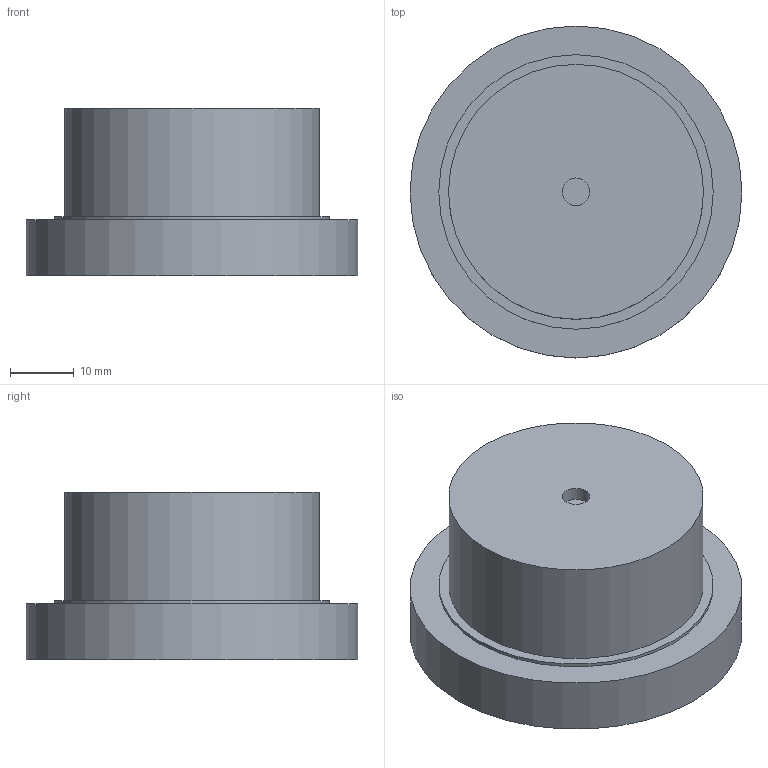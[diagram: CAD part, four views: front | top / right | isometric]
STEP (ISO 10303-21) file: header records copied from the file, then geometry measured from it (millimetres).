
FILE_DESCRIPTION(/* description */ (''),/* implementation_level */ '2;1');
FILE_NAME(/* name */ 'HW-Cycloid25_Output_Carrier.step',/* time_stamp */ '2026-10-21T02:01:44-07:00',/* author */ (''),/* organization */ (''),/* preprocessor_version */ 'ST-DEVELOPER v20.2',/* originating_system */ 'Autodesk Translation Framework v15.15.0.0',/* authorisation */ '');
FILE_SCHEMA (('AUTOMOTIVE_DESIGN { 1 0 10303 214 3 1 1 }'));
Length unit declared in the file: millimetre
Products named in the file (1): 2026-10-21-02-01-44-663
Bounding box: 51.99 x 51.99 x 26.28 mm (x, y, z)
Volume: 39904 mm3; surface area: 8563.7 mm2
Topology: 1 solids, 1 shells, 23 faces, 33 edges, 22 vertices
Faces by surface type: plane 12, cylinder 11
Full cylindrical faces by diameter (mm): 4.04 x6, 4.32 x1, 7 x1, 39.93 x1, 43 x1, 51.99 x1
Entity records: 542 total; most frequent: DIRECTION 103, CARTESIAN_POINT 79, ORIENTED_EDGE 66, AXIS2_PLACEMENT_3D 46, EDGE_LOOP 33, EDGE_CURVE 33, FACE_OUTER_BOUND 23, ADVANCED_FACE 23
